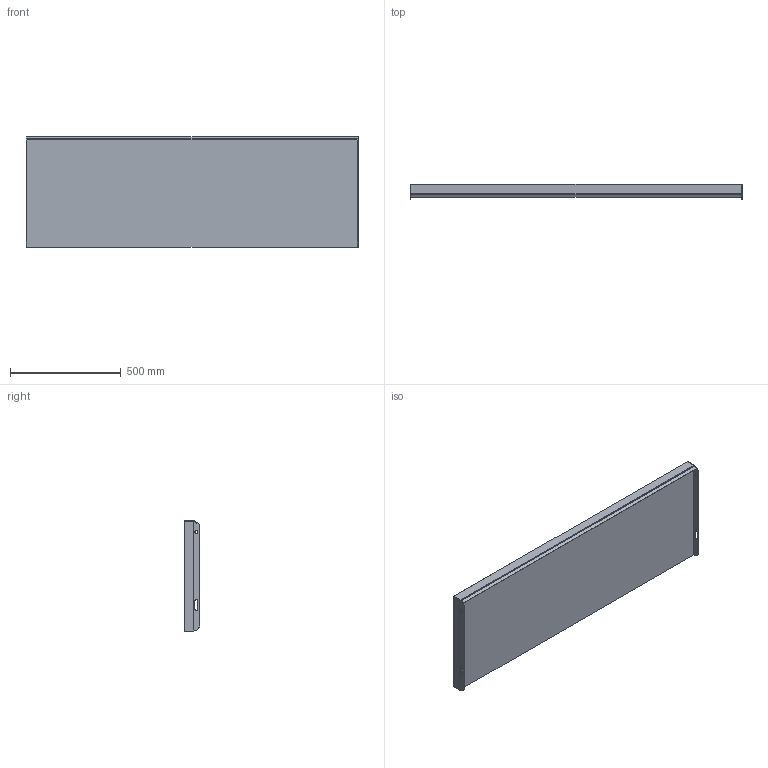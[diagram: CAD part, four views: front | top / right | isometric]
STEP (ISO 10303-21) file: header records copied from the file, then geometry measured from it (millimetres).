
FILE_DESCRIPTION (( 'STEP AP203' ), '1' );
FILE_NAME ('148815051, Plan TH6, 1500x500, vfz.STEP', '2020-10-21T13:22:33', ( '' ), ( '' ), 'SwSTEP 2.0', 'SolidWorks 2019', '' );
FILE_SCHEMA (( 'CONFIG_CONTROL_DESIGN' ));
Length unit declared in the file: millimetre
Products named in the file (4): SW0000041757; SW0000041809; SW0000041378; 148815051, Plan TH6, 1500x500, vfz
Assembly tree (4 placements, depth 2):
  148815051, Plan TH6, 1500x500, vfz
    SW0000041809
    SW0000041378  x2
    SW0000041757
Bounding box: 1500 x 70 x 497 mm (x, y, z)
Volume: 29992167.7 mm3; surface area: 1966021.1 mm2
Topology: 4 solids, 4 shells, 59 faces, 142 edges, 92 vertices
Faces by surface type: plane 45, cylinder 14
Entity records: 1693 total; most frequent: DIRECTION 221, CARTESIAN_POINT 220, ORIENTED_EDGE 206, EDGE_CURVE 103, LINE 87, VECTOR 87, AXIS2_PLACEMENT_3D 67, VERTEX_POINT 66
